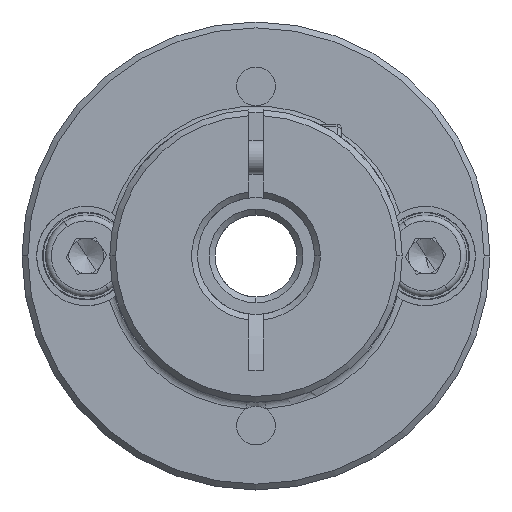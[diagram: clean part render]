
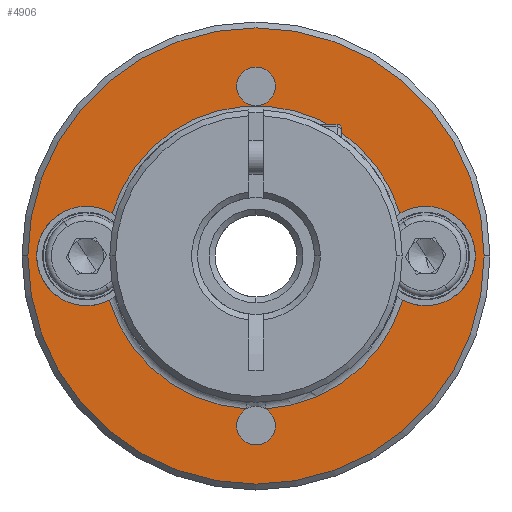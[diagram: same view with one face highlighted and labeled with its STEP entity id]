
A CAD part, front view. The second image highlights one B-rep face of the part: STEP entity #4906.
In plain terms, the highlighted planar face has unit normal (0, -1, 0).
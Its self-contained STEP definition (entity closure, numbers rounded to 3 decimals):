
#31 = DIRECTION ( 'NONE',  ( 1., 0., 0. ) ) ;
#191 = PLANE ( 'NONE',  #3274 ) ;
#205 = ORIENTED_EDGE ( 'NONE', *, *, #4486, .T. ) ;
#315 = VERTEX_POINT ( 'NONE', #3641 ) ;
#412 = ORIENTED_EDGE ( 'NONE', *, *, #3234, .T. ) ;
#472 = DIRECTION ( 'NONE',  ( 1., 0., 0. ) ) ;
#516 = DIRECTION ( 'NONE',  ( 0., 1., 0. ) ) ;
#545 = CARTESIAN_POINT ( 'NONE',  ( 6.745, -13.63, 40. ) ) ;
#984 = ORIENTED_EDGE ( 'NONE', *, *, #4015, .T. ) ;
#1044 = AXIS2_PLACEMENT_3D ( 'NONE', #5465, #2538, #8381 ) ;
#1255 = CARTESIAN_POINT ( 'NONE',  ( -12.005, -13.63, 40. ) ) ;
#1361 = CARTESIAN_POINT ( 'NONE',  ( -12.005, -13.63, 40. ) ) ;
#1390 = CIRCLE ( 'NONE', #1044, 1.65 ) ;
#1401 = FACE_OUTER_BOUND ( 'NONE', #8653, .T. ) ;
#1449 = AXIS2_PLACEMENT_3D ( 'NONE', #1255, #9182, #2343 ) ;
#1454 = DIRECTION ( 'NONE',  ( 1., 0., 0. ) ) ;
#1577 = DIRECTION ( 'NONE',  ( 0., 1., 0. ) ) ;
#1640 = DIRECTION ( 'NONE',  ( 0., 1., 0. ) ) ;
#1657 = ORIENTED_EDGE ( 'NONE', *, *, #5480, .T. ) ;
#1713 = AXIS2_PLACEMENT_3D ( 'NONE', #1361, #516, #3375 ) ;
#1819 = ORIENTED_EDGE ( 'NONE', *, *, #8460, .T. ) ;
#1930 = CARTESIAN_POINT ( 'NONE',  ( -26.505, -13.63, 40. ) ) ;
#2016 = FACE_BOUND ( 'NONE', #4752, .T. ) ;
#2210 = DIRECTION ( 'NONE',  ( 1., 0., 0. ) ) ;
#2249 = CARTESIAN_POINT ( 'NONE',  ( 7.495, -13.63, 40. ) ) ;
#2343 = DIRECTION ( 'NONE',  ( 1., 0., 0. ) ) ;
#2398 = CARTESIAN_POINT ( 'NONE',  ( -13.655, -13.63, 25.5 ) ) ;
#2417 = CARTESIAN_POINT ( 'NONE',  ( -12.005, -13.63, 54.5 ) ) ;
#2538 = DIRECTION ( 'NONE',  ( 0., 1., 0. ) ) ;
#2588 = CARTESIAN_POINT ( 'NONE',  ( -13.655, -13.63, 54.5 ) ) ;
#2715 = DIRECTION ( 'NONE',  ( 1., 0., 0. ) ) ;
#2919 = DIRECTION ( 'NONE',  ( 0., 1., 0. ) ) ;
#3033 = DIRECTION ( 'NONE',  ( 0., 1., 0. ) ) ;
#3182 = VERTEX_POINT ( 'NONE', #12336 ) ;
#3232 = ORIENTED_EDGE ( 'NONE', *, *, #9480, .T. ) ;
#3234 = EDGE_CURVE ( 'NONE', #3182, #9873, #11479, .T. ) ;
#3274 = AXIS2_PLACEMENT_3D ( 'NONE', #8138, #4148, #2210 ) ;
#3375 = DIRECTION ( 'NONE',  ( 1., 0., 0. ) ) ;
#3390 = ORIENTED_EDGE ( 'NONE', *, *, #6211, .T. ) ;
#3422 = DIRECTION ( 'NONE',  ( 1., 0., 0. ) ) ;
#3506 = AXIS2_PLACEMENT_3D ( 'NONE', #7432, #6361, #472 ) ;
#3537 = CIRCLE ( 'NONE', #1449, 19.5 ) ;
#3551 = ORIENTED_EDGE ( 'NONE', *, *, #3692, .T. ) ;
#3641 = CARTESIAN_POINT ( 'NONE',  ( -31.505, -13.63, 40. ) ) ;
#3692 = EDGE_CURVE ( 'NONE', #10914, #3182, #11317, .T. ) ;
#3848 = ORIENTED_EDGE ( 'NONE', *, *, #12189, .T. ) ;
#3922 = VERTEX_POINT ( 'NONE', #12113 ) ;
#3964 = CARTESIAN_POINT ( 'NONE',  ( -12.005, -13.63, 40. ) ) ;
#4015 = EDGE_CURVE ( 'NONE', #5716, #4436, #10696, .T. ) ;
#4148 = DIRECTION ( 'NONE',  ( 0., -1., 0. ) ) ;
#4338 = DIRECTION ( 'NONE',  ( 0., -1., 0. ) ) ;
#4340 = DIRECTION ( 'NONE',  ( 1., 0., 0. ) ) ;
#4413 = EDGE_CURVE ( 'NONE', #12068, #10860, #6191, .T. ) ;
#4436 = VERTEX_POINT ( 'NONE', #2398 ) ;
#4486 = EDGE_CURVE ( 'NONE', #10860, #5716, #11732, .T. ) ;
#4555 = CARTESIAN_POINT ( 'NONE',  ( -30.755, -13.63, 40. ) ) ;
#4752 = EDGE_LOOP ( 'NONE', ( #1819, #3848 ) ) ;
#4898 = ORIENTED_EDGE ( 'NONE', *, *, #4413, .T. ) ;
#4906 = ADVANCED_FACE ( 'NONE', ( #1401, #6814, #2016 ), #191, .T. ) ;
#5187 = ORIENTED_EDGE ( 'NONE', *, *, #12427, .T. ) ;
#5398 = EDGE_CURVE ( 'NONE', #315, #8368, #11123, .T. ) ;
#5424 = DIRECTION ( 'NONE',  ( 1., 0., 0. ) ) ;
#5465 = CARTESIAN_POINT ( 'NONE',  ( -12.005, -13.63, 25.5 ) ) ;
#5480 = EDGE_CURVE ( 'NONE', #4436, #3922, #1390, .T. ) ;
#5496 = AXIS2_PLACEMENT_3D ( 'NONE', #11347, #10409, #9469 ) ;
#5548 = VERTEX_POINT ( 'NONE', #2588 ) ;
#5691 = EDGE_CURVE ( 'NONE', #9873, #11711, #5768, .T. ) ;
#5716 = VERTEX_POINT ( 'NONE', #11514 ) ;
#5768 = CIRCLE ( 'NONE', #11963, 4.25 ) ;
#5836 = EDGE_LOOP ( 'NONE', ( #5187, #3551, #412, #10180, #3232, #4898, #205, #984, #1657, #3390 ) ) ;
#5900 = CIRCLE ( 'NONE', #7101, 1.65 ) ;
#6012 = AXIS2_PLACEMENT_3D ( 'NONE', #7398, #6283, #1454 ) ;
#6191 = CIRCLE ( 'NONE', #1713, 13.1 ) ;
#6211 = EDGE_CURVE ( 'NONE', #3922, #8827, #8388, .T. ) ;
#6283 = DIRECTION ( 'NONE',  ( 0., 1., 0. ) ) ;
#6345 = VERTEX_POINT ( 'NONE', #10101 ) ;
#6361 = DIRECTION ( 'NONE',  ( 0., 1., 0. ) ) ;
#6425 = CIRCLE ( 'NONE', #6012, 4.25 ) ;
#6639 = DIRECTION ( 'NONE',  ( 1., 0., 0. ) ) ;
#6772 = DIRECTION ( 'NONE',  ( 0., 1., 0. ) ) ;
#6814 = FACE_BOUND ( 'NONE', #5836, .T. ) ;
#7101 = AXIS2_PLACEMENT_3D ( 'NONE', #10281, #9425, #4340 ) ;
#7398 = CARTESIAN_POINT ( 'NONE',  ( 2.495, -13.63, 40. ) ) ;
#7432 = CARTESIAN_POINT ( 'NONE',  ( -12.005, -13.63, 25.5 ) ) ;
#7574 = CIRCLE ( 'NONE', #10084, 1.65 ) ;
#7681 = EDGE_CURVE ( 'NONE', #8368, #315, #3537, .T. ) ;
#7898 = CARTESIAN_POINT ( 'NONE',  ( -12.005, -13.63, 40. ) ) ;
#8138 = CARTESIAN_POINT ( 'NONE',  ( -12.005, -13.63, 40. ) ) ;
#8291 = CARTESIAN_POINT ( 'NONE',  ( -12.005, -13.63, 40. ) ) ;
#8368 = VERTEX_POINT ( 'NONE', #2249 ) ;
#8381 = DIRECTION ( 'NONE',  ( 1., 0., 0. ) ) ;
#8388 = CIRCLE ( 'NONE', #8443, 13.1 ) ;
#8443 = AXIS2_PLACEMENT_3D ( 'NONE', #7898, #3033, #31 ) ;
#8456 = ORIENTED_EDGE ( 'NONE', *, *, #5398, .T. ) ;
#8460 = EDGE_CURVE ( 'NONE', #5548, #6345, #7574, .T. ) ;
#8469 = ORIENTED_EDGE ( 'NONE', *, *, #7681, .T. ) ;
#8653 = EDGE_LOOP ( 'NONE', ( #8456, #8469 ) ) ;
#8806 = CARTESIAN_POINT ( 'NONE',  ( -24.55, -13.63, 36.226 ) ) ;
#8827 = VERTEX_POINT ( 'NONE', #8806 ) ;
#9181 = AXIS2_PLACEMENT_3D ( 'NONE', #1930, #6772, #2715 ) ;
#9182 = DIRECTION ( 'NONE',  ( 0., -1., 0. ) ) ;
#9425 = DIRECTION ( 'NONE',  ( 0., 1., 0. ) ) ;
#9469 = DIRECTION ( 'NONE',  ( 1., 0., 0. ) ) ;
#9480 = EDGE_CURVE ( 'NONE', #11711, #12068, #6425, .T. ) ;
#9503 = CARTESIAN_POINT ( 'NONE',  ( -26.505, -13.63, 40. ) ) ;
#9873 = VERTEX_POINT ( 'NONE', #11871 ) ;
#10084 = AXIS2_PLACEMENT_3D ( 'NONE', #2417, #10372, #5424 ) ;
#10101 = CARTESIAN_POINT ( 'NONE',  ( -10.355, -13.63, 54.5 ) ) ;
#10180 = ORIENTED_EDGE ( 'NONE', *, *, #5691, .T. ) ;
#10281 = CARTESIAN_POINT ( 'NONE',  ( -12.005, -13.63, 54.5 ) ) ;
#10334 = AXIS2_PLACEMENT_3D ( 'NONE', #8291, #4338, #11220 ) ;
#10372 = DIRECTION ( 'NONE',  ( 0., 1., 0. ) ) ;
#10409 = DIRECTION ( 'NONE',  ( 0., 1., 0. ) ) ;
#10531 = CARTESIAN_POINT ( 'NONE',  ( 0.54, -13.63, 36.226 ) ) ;
#10696 = CIRCLE ( 'NONE', #5496, 1.65 ) ;
#10700 = CARTESIAN_POINT ( 'NONE',  ( 2.495, -13.63, 40. ) ) ;
#10830 = DIRECTION ( 'NONE',  ( 1., 0., 0. ) ) ;
#10860 = VERTEX_POINT ( 'NONE', #12350 ) ;
#10914 = VERTEX_POINT ( 'NONE', #4555 ) ;
#11123 = CIRCLE ( 'NONE', #10334, 19.5 ) ;
#11220 = DIRECTION ( 'NONE',  ( 1., 0., 0. ) ) ;
#11317 = CIRCLE ( 'NONE', #12484, 4.25 ) ;
#11347 = CARTESIAN_POINT ( 'NONE',  ( -12.005, -13.63, 25.5 ) ) ;
#11479 = CIRCLE ( 'NONE', #11655, 12.829 ) ;
#11514 = CARTESIAN_POINT ( 'NONE',  ( -10.355, -13.63, 25.5 ) ) ;
#11655 = AXIS2_PLACEMENT_3D ( 'NONE', #3964, #2919, #10830 ) ;
#11708 = CIRCLE ( 'NONE', #9181, 4.25 ) ;
#11711 = VERTEX_POINT ( 'NONE', #545 ) ;
#11732 = CIRCLE ( 'NONE', #3506, 1.65 ) ;
#11871 = CARTESIAN_POINT ( 'NONE',  ( 0.298, -13.63, 43.638 ) ) ;
#11963 = AXIS2_PLACEMENT_3D ( 'NONE', #10700, #1640, #6639 ) ;
#12068 = VERTEX_POINT ( 'NONE', #10531 ) ;
#12113 = CARTESIAN_POINT ( 'NONE',  ( -12.834, -13.63, 26.926 ) ) ;
#12189 = EDGE_CURVE ( 'NONE', #6345, #5548, #5900, .T. ) ;
#12336 = CARTESIAN_POINT ( 'NONE',  ( -24.307, -13.63, 43.638 ) ) ;
#12350 = CARTESIAN_POINT ( 'NONE',  ( -11.175, -13.63, 26.926 ) ) ;
#12427 = EDGE_CURVE ( 'NONE', #8827, #10914, #11708, .T. ) ;
#12484 = AXIS2_PLACEMENT_3D ( 'NONE', #9503, #1577, #3422 ) ;
